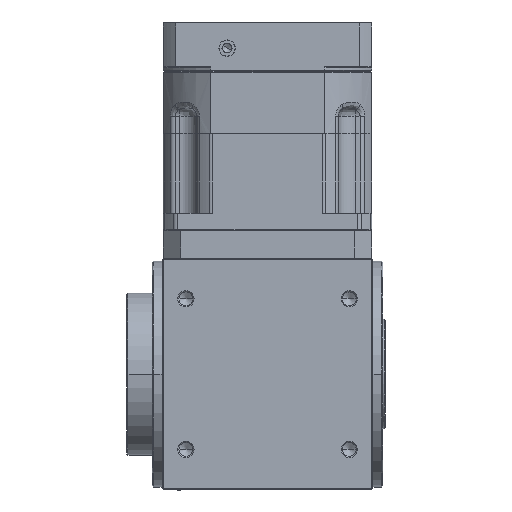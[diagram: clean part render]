
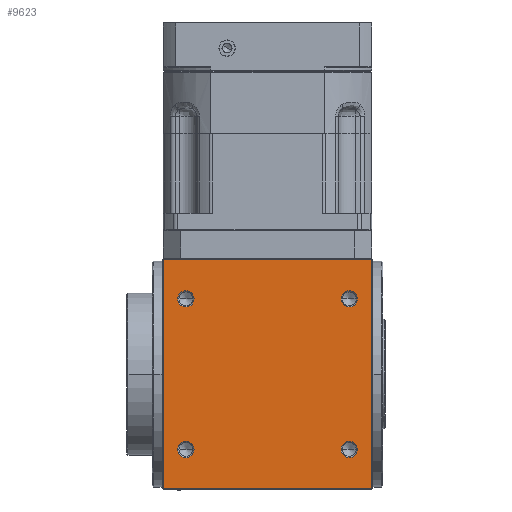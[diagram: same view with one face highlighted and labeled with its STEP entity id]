
A CAD part, front view. The second image highlights one B-rep face of the part: STEP entity #9623.
In plain terms, the highlighted planar face has unit normal (0, -1, 0) as drawn and (0, 0, -1) by its records, which use the part's own axes.
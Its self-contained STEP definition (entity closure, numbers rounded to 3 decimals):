
#503 = VECTOR ( 'NONE', #69199, 1000. ) ;
#1915 = EDGE_CURVE ( 'NONE', #6276, #6476, #82251, .T. ) ;
#2824 = CARTESIAN_POINT ( 'NONE',  ( 91., 99., -100. ) ) ;
#3051 = LINE ( 'NONE', #19739, #503 ) ;
#4782 = CARTESIAN_POINT ( 'NONE',  ( -70.5, -65., -100. ) ) ;
#6276 = VERTEX_POINT ( 'NONE', #32249 ) ;
#6476 = VERTEX_POINT ( 'NONE', #19447 ) ;
#6655 = ORIENTED_EDGE ( 'NONE', *, *, #43736, .F. ) ;
#6983 = DIRECTION ( 'NONE',  ( 0., 0., -1. ) ) ;
#7924 = ORIENTED_EDGE ( 'NONE', *, *, #20813, .F. ) ;
#8581 = EDGE_CURVE ( 'NONE', #75218, #23526, #32236, .T. ) ;
#9623 = ADVANCED_FACE ( 'NONE', ( #77242, #57834, #55214, #99206, #13886 ), #65267, .F. ) ;
#11230 = ORIENTED_EDGE ( 'NONE', *, *, #1915, .F. ) ;
#11984 = AXIS2_PLACEMENT_3D ( 'NONE', #62028, #61946, #61685 ) ;
#12826 = CARTESIAN_POINT ( 'NONE',  ( -70.5, 72., -100. ) ) ;
#13076 = DIRECTION ( 'NONE',  ( -1., 0., 0. ) ) ;
#13174 = EDGE_LOOP ( 'NONE', ( #11230, #91763, #6655, #52162 ) ) ;
#13424 = EDGE_CURVE ( 'NONE', #31339, #19637, #63688, .T. ) ;
#13886 = FACE_OUTER_BOUND ( 'NONE', #13174, .T. ) ;
#16241 = AXIS2_PLACEMENT_3D ( 'NONE', #79464, #79351, #79265 ) ;
#16245 = CIRCLE ( 'NONE', #27083, 7. ) ;
#16315 = CARTESIAN_POINT ( 'NONE',  ( -77.5, -65., -100. ) ) ;
#16724 = DIRECTION ( 'NONE',  ( 0., 0., -1. ) ) ;
#17115 = DIRECTION ( 'NONE',  ( 1., 0., 0. ) ) ;
#17349 = DIRECTION ( 'NONE',  ( 0., 1., 0. ) ) ;
#18903 = VECTOR ( 'NONE', #30126, 1000. ) ;
#19416 = CARTESIAN_POINT ( 'NONE',  ( 70.5, -65., -100. ) ) ;
#19447 = CARTESIAN_POINT ( 'NONE',  ( -90., -99., -100. ) ) ;
#19637 = VERTEX_POINT ( 'NONE', #58352 ) ;
#19739 = CARTESIAN_POINT ( 'NONE',  ( 90., 100., -100. ) ) ;
#20154 = ORIENTED_EDGE ( 'NONE', *, *, #83402, .F. ) ;
#20813 = EDGE_CURVE ( 'NONE', #23526, #75218, #34488, .T. ) ;
#23526 = VERTEX_POINT ( 'NONE', #12826 ) ;
#23634 = ORIENTED_EDGE ( 'NONE', *, *, #8581, .F. ) ;
#24841 = CARTESIAN_POINT ( 'NONE',  ( 70.5, 65., -100. ) ) ;
#25365 = LINE ( 'NONE', #66584, #88705 ) ;
#27023 = CARTESIAN_POINT ( 'NONE',  ( -63.5, -65., -100. ) ) ;
#27083 = AXIS2_PLACEMENT_3D ( 'NONE', #4782, #62527, #13076 ) ;
#27726 = DIRECTION ( 'NONE',  ( 0., 1., 0. ) ) ;
#28740 = CARTESIAN_POINT ( 'NONE',  ( -90., 100., -100. ) ) ;
#30004 = CARTESIAN_POINT ( 'NONE',  ( 90., 99., -100. ) ) ;
#30126 = DIRECTION ( 'NONE',  ( 0., -1., 0. ) ) ;
#30175 = VERTEX_POINT ( 'NONE', #27023 ) ;
#30324 = EDGE_LOOP ( 'NONE', ( #47879, #33443 ) ) ;
#30954 = VERTEX_POINT ( 'NONE', #89743 ) ;
#31339 = VERTEX_POINT ( 'NONE', #45232 ) ;
#32232 = AXIS2_PLACEMENT_3D ( 'NONE', #43919, #101589, #52112 ) ;
#32236 = CIRCLE ( 'NONE', #52248, 7. ) ;
#32249 = CARTESIAN_POINT ( 'NONE',  ( -90., 99., -100. ) ) ;
#33133 = DIRECTION ( 'NONE',  ( 0., 1., 0. ) ) ;
#33443 = ORIENTED_EDGE ( 'NONE', *, *, #13424, .F. ) ;
#34488 = CIRCLE ( 'NONE', #36325, 7. ) ;
#34766 = EDGE_CURVE ( 'NONE', #19637, #31339, #87359, .T. ) ;
#35662 = CARTESIAN_POINT ( 'NONE',  ( -70.5, 65., -100. ) ) ;
#35700 = CARTESIAN_POINT ( 'NONE',  ( 70.5, -72., -100. ) ) ;
#36325 = AXIS2_PLACEMENT_3D ( 'NONE', #35662, #16724, #17349 ) ;
#36443 = ORIENTED_EDGE ( 'NONE', *, *, #73651, .F. ) ;
#39221 = LINE ( 'NONE', #2824, #77952 ) ;
#42593 = VERTEX_POINT ( 'NONE', #35700 ) ;
#43736 = EDGE_CURVE ( 'NONE', #30954, #79503, #3051, .T. ) ;
#43919 = CARTESIAN_POINT ( 'NONE',  ( 70.5, -65., -100. ) ) ;
#45232 = CARTESIAN_POINT ( 'NONE',  ( 70.5, 58., -100. ) ) ;
#45767 = AXIS2_PLACEMENT_3D ( 'NONE', #24841, #82623, #33133 ) ;
#47879 = ORIENTED_EDGE ( 'NONE', *, *, #34766, .F. ) ;
#48184 = EDGE_LOOP ( 'NONE', ( #7924, #23634 ) ) ;
#52112 = DIRECTION ( 'NONE',  ( 0., 1., 0. ) ) ;
#52162 = ORIENTED_EDGE ( 'NONE', *, *, #83219, .F. ) ;
#52248 = AXIS2_PLACEMENT_3D ( 'NONE', #103861, #103872, #104415 ) ;
#55214 = FACE_BOUND ( 'NONE', #30324, .T. ) ;
#56400 = CARTESIAN_POINT ( 'NONE',  ( -70.5, -65., -100. ) ) ;
#57834 = FACE_BOUND ( 'NONE', #48184, .T. ) ;
#58352 = CARTESIAN_POINT ( 'NONE',  ( 70.5, 72., -100. ) ) ;
#59996 = CIRCLE ( 'NONE', #32232, 7. ) ;
#61164 = EDGE_LOOP ( 'NONE', ( #107027, #105715 ) ) ;
#61536 = CIRCLE ( 'NONE', #79954, 7. ) ;
#61685 = DIRECTION ( 'NONE',  ( 0., -1., 0. ) ) ;
#61946 = DIRECTION ( 'NONE',  ( 0., 0., 1. ) ) ;
#62028 = CARTESIAN_POINT ( 'NONE',  ( 91., 100., -100. ) ) ;
#62156 = VERTEX_POINT ( 'NONE', #16315 ) ;
#62527 = DIRECTION ( 'NONE',  ( 0., 0., -1. ) ) ;
#63225 = EDGE_CURVE ( 'NONE', #42593, #99137, #59996, .T. ) ;
#63671 = CIRCLE ( 'NONE', #93461, 7. ) ;
#63688 = CIRCLE ( 'NONE', #16241, 7. ) ;
#64731 = DIRECTION ( 'NONE',  ( -1., 0., 0. ) ) ;
#65267 = PLANE ( 'NONE',  #11984 ) ;
#66584 = CARTESIAN_POINT ( 'NONE',  ( 91., -99., -100. ) ) ;
#66738 = EDGE_CURVE ( 'NONE', #6276, #79503, #39221, .T. ) ;
#69072 = CARTESIAN_POINT ( 'NONE',  ( 70.5, -58., -100. ) ) ;
#69199 = DIRECTION ( 'NONE',  ( 0., 1., 0. ) ) ;
#71955 = EDGE_LOOP ( 'NONE', ( #36443, #20154 ) ) ;
#73651 = EDGE_CURVE ( 'NONE', #62156, #30175, #63671, .T. ) ;
#75218 = VERTEX_POINT ( 'NONE', #76457 ) ;
#76457 = CARTESIAN_POINT ( 'NONE',  ( -70.5, 58., -100. ) ) ;
#77212 = DIRECTION ( 'NONE',  ( 0., 0., -1. ) ) ;
#77242 = FACE_BOUND ( 'NONE', #71955, .T. ) ;
#77952 = VECTOR ( 'NONE', #85165, 1000. ) ;
#79265 = DIRECTION ( 'NONE',  ( 0., 1., 0. ) ) ;
#79351 = DIRECTION ( 'NONE',  ( 0., 0., -1. ) ) ;
#79464 = CARTESIAN_POINT ( 'NONE',  ( 70.5, 65., -100. ) ) ;
#79503 = VERTEX_POINT ( 'NONE', #30004 ) ;
#79954 = AXIS2_PLACEMENT_3D ( 'NONE', #19416, #77212, #27726 ) ;
#82251 = LINE ( 'NONE', #28740, #18903 ) ;
#82623 = DIRECTION ( 'NONE',  ( 0., 0., -1. ) ) ;
#83219 = EDGE_CURVE ( 'NONE', #6476, #30954, #25365, .T. ) ;
#83402 = EDGE_CURVE ( 'NONE', #30175, #62156, #16245, .T. ) ;
#85165 = DIRECTION ( 'NONE',  ( 1., 0., 0. ) ) ;
#87359 = CIRCLE ( 'NONE', #45767, 7. ) ;
#88705 = VECTOR ( 'NONE', #17115, 1000. ) ;
#89743 = CARTESIAN_POINT ( 'NONE',  ( 90., -99., -100. ) ) ;
#91763 = ORIENTED_EDGE ( 'NONE', *, *, #66738, .T. ) ;
#92207 = EDGE_CURVE ( 'NONE', #99137, #42593, #61536, .T. ) ;
#93461 = AXIS2_PLACEMENT_3D ( 'NONE', #56400, #6983, #64731 ) ;
#99137 = VERTEX_POINT ( 'NONE', #69072 ) ;
#99206 = FACE_BOUND ( 'NONE', #61164, .T. ) ;
#101589 = DIRECTION ( 'NONE',  ( 0., 0., -1. ) ) ;
#103861 = CARTESIAN_POINT ( 'NONE',  ( -70.5, 65., -100. ) ) ;
#103872 = DIRECTION ( 'NONE',  ( 0., 0., -1. ) ) ;
#104415 = DIRECTION ( 'NONE',  ( 0., 1., 0. ) ) ;
#105715 = ORIENTED_EDGE ( 'NONE', *, *, #63225, .F. ) ;
#107027 = ORIENTED_EDGE ( 'NONE', *, *, #92207, .F. ) ;
